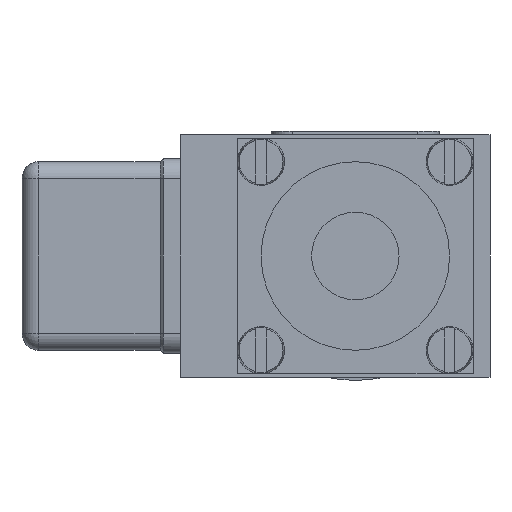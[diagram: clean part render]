
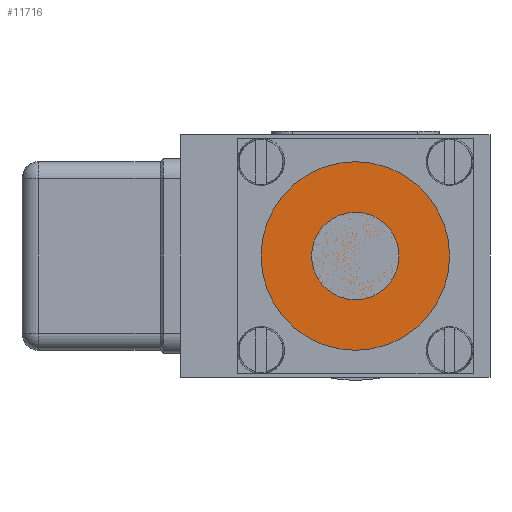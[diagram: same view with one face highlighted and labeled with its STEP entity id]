
A CAD part, left-side view. The second image highlights one B-rep face of the part: STEP entity #11716.
In plain terms, the highlighted planar face has unit normal (-1, 0, 0) as drawn and (1, 0, 0) by its records, which use the part's own axes.
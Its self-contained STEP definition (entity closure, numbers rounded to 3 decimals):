
#11413=CARTESIAN_POINT('',(10.2,0.,0.));
#11414=DIRECTION('',(1.,0.,0.));
#11415=DIRECTION('',(0.,0.,-1.));
#11416=AXIS2_PLACEMENT_3D('',#11413,#11414,#11415);
#11421=CARTESIAN_POINT('',(10.2,0.,0.));
#11422=DIRECTION('',(1.,0.,0.));
#11423=DIRECTION('',(0.,0.,1.));
#11424=AXIS2_PLACEMENT_3D('',#11421,#11422,#11423);
#11501=CARTESIAN_POINT('',(10.2,0.,-14.));
#11502=CARTESIAN_POINT('',(10.2,0.,14.));
#11503=VERTEX_POINT('',#11501);
#11504=VERTEX_POINT('',#11502);
#11707=CARTESIAN_POINT('',(10.2,0.,0.));
#11708=DIRECTION('',(1.,0.,0.));
#11709=DIRECTION('',(0.,0.,-1.));
#11710=AXIS2_PLACEMENT_3D('',#11707,#11708,#11709);
#11711=PLANE('',#11710);
#11712=ORIENTED_EDGE('',*,*,#11687,.F.);
#11713=ORIENTED_EDGE('',*,*,#11701,.F.);
#11714=EDGE_LOOP('',(#11712,#11713));
#11715=FACE_OUTER_BOUND('',#11714,.F.);
#11417=CIRCLE('',#11416,14.);
#11425=CIRCLE('',#11424,14.);
#11687=EDGE_CURVE('',#11503,#11504,#11417,.T.);
#11701=EDGE_CURVE('',#11504,#11503,#11425,.T.);
#11716=ADVANCED_FACE('',(#11715),#11711,.T.);
